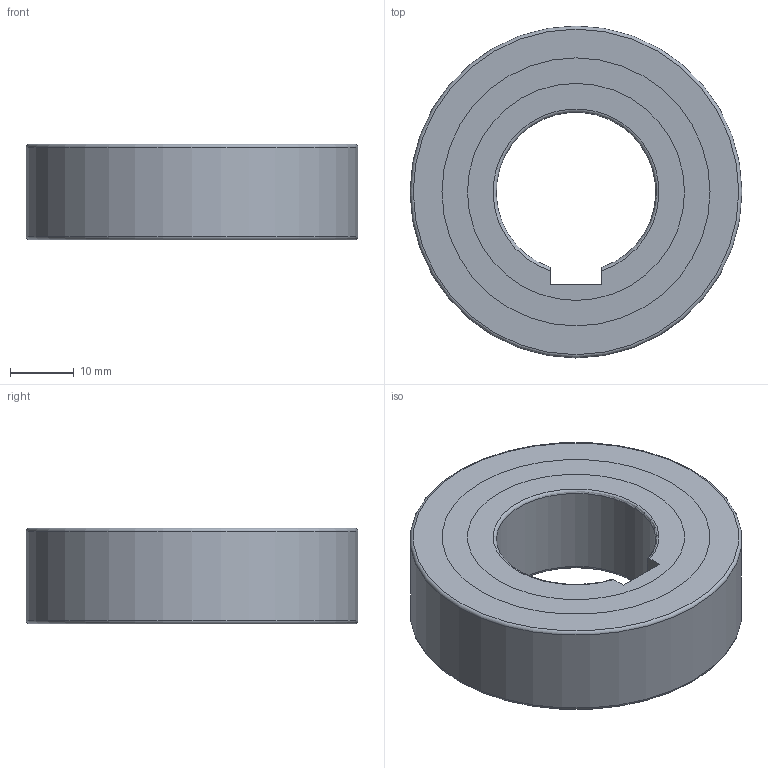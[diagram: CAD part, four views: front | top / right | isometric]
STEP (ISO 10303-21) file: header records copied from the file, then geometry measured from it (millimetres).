
FILE_DESCRIPTION(/* description */ (''),/* implementation_level */ '2;1');
FILE_NAME(/* name */ '301131 FKN 6205.stp',/* time_stamp */ '2016-11-24T08:21:06+01:00',/* author */ (''),/* organization */ (''),/* preprocessor_version */ 'ST-DEVELOPER v15',/* originating_system */ 'SIEMENS PLM Software NX 8.5',/* authorisation */ '');
FILE_SCHEMA (('CONFIG_CONTROL_DESIGN'));
Length unit declared in the file: millimetre
Products named in the file (3): ATE0000079_01; ATE0000110_01; ATE0000111_01
Assembly tree (2 placements, depth 2):
  ATE0000111_01
    ATE0000110_01
    ATE0000079_01
Bounding box: 52 x 52 x 15 mm (x, y, z)
Volume: 20616.4 mm3; surface area: 14167.2 mm2
Topology: 4 solids, 4 shells, 75 faces, 167 edges, 110 vertices
Faces by surface type: plane 47, cylinder 22, torus 6
Full cylindrical faces by diameter (mm): 34 x4, 38 x1, 40 x1, 41 x2, 42 x4, 52 x1
Entity records: 2323 total; most frequent: CARTESIAN_POINT 393, DIRECTION 358, ORIENTED_EDGE 284, EDGE_CURVE 142, AXIS2_PLACEMENT_3D 142, EDGE_LOOP 112, VERTEX_POINT 104, ADVANCED_FACE 75
